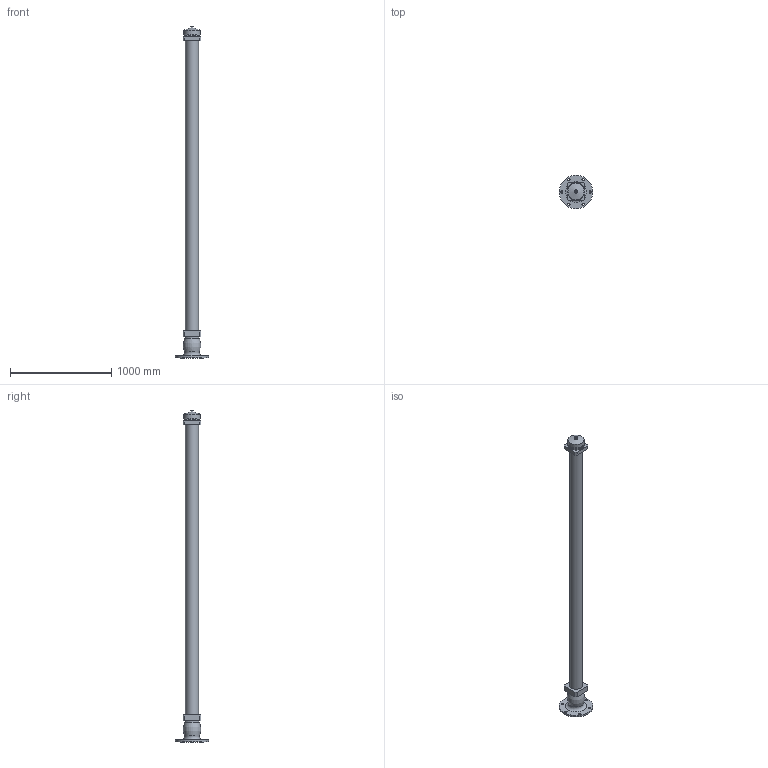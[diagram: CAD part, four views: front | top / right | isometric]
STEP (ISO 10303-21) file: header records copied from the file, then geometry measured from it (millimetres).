
FILE_DESCRIPTION(('STEP AP203'), '1');
FILE_NAME('Ãèäðàíò GPP 3250 ïîæàðíûé ïîäçåìíûé', '', ('UNSPECIFIED'), ('UNSPECIFIED'), 'ASCON STEP Converter 1.6', 'ASCON Math Kernel', '');
FILE_SCHEMA(('CONFIG_CONTROL_DESIGN'));
Length unit declared in the file: millimetre
Bounding box: 330 x 330 x 3272 mm (x, y, z)
Volume: 47145922.5 mm3; surface area: 1617429.7 mm2
Topology: 1 solids, 1 shells, 47 faces, 104 edges, 67 vertices
Faces by surface type: plane 26, cylinder 12, cone 7, torus 2
Full cylindrical faces by diameter (mm): 20 x1, 22 x6, 129 x1, 142 x1, 143 x1, 157.302 x1, 160 x1
Entity records: 1617 total; most frequent: DIRECTION 212, CARTESIAN_POINT 196, ORIENTED_EDGE 164, EDGE_LOOP 88, AXIS2_PLACEMENT_3D 82, EDGE_CURVE 82, VERTEX_POINT 66, COLOUR_RGB 48
